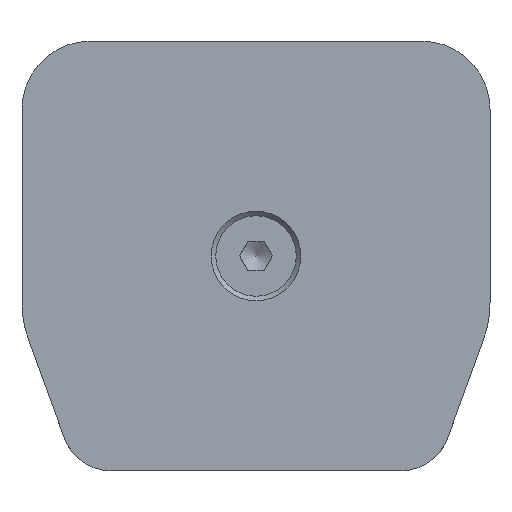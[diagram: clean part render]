
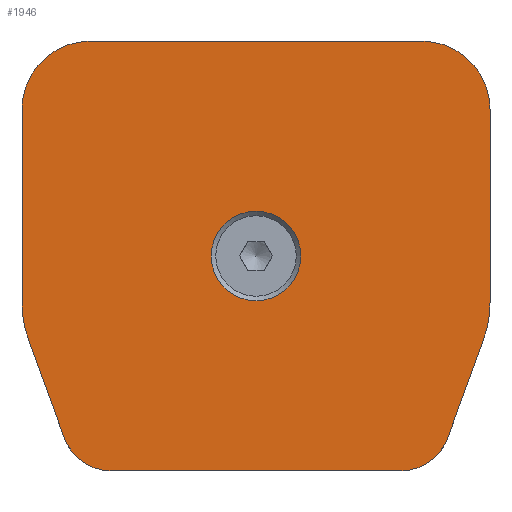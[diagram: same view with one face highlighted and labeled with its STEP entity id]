
A CAD part, top view. The second image highlights one B-rep face of the part: STEP entity #1946.
In plain terms, the highlighted planar face has unit normal (0, 0, 1).
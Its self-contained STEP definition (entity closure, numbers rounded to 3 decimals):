
#75=FACE_BOUND('',#319,.T.);
#91=CIRCLE('',#2057,6.3);
#93=CIRCLE('',#2060,15.);
#95=CIRCLE('',#2064,9.6);
#97=CIRCLE('',#2068,9.6);
#99=CIRCLE('',#2072,15.);
#101=CIRCLE('',#2076,7.);
#103=CIRCLE('',#2080,7.);
#200=FACE_OUTER_BOUND('',#318,.T.);
#318=EDGE_LOOP('',(#1387,#1388,#1389,#1390,#1391,#1392,#1393,#1394,#1395,
#1396,#1397,#1398));
#319=EDGE_LOOP('',(#1399));
#446=LINE('',#2850,#648);
#450=LINE('',#2862,#652);
#454=LINE('',#2874,#656);
#458=LINE('',#2886,#660);
#462=LINE('',#2898,#664);
#466=LINE('',#2909,#668);
#648=VECTOR('',#2284,27.255);
#652=VECTOR('',#2296,46.7);
#656=VECTOR('',#2308,27.255);
#660=VECTOR('',#2320,14.801);
#664=VECTOR('',#2332,40.81);
#668=VECTOR('',#2344,14.801);
#842=VERTEX_POINT('',#2835);
#844=VERTEX_POINT('',#2840);
#845=VERTEX_POINT('',#2841);
#848=VERTEX_POINT('',#2849);
#850=VERTEX_POINT('',#2855);
#852=VERTEX_POINT('',#2861);
#854=VERTEX_POINT('',#2867);
#856=VERTEX_POINT('',#2873);
#858=VERTEX_POINT('',#2879);
#860=VERTEX_POINT('',#2885);
#862=VERTEX_POINT('',#2891);
#864=VERTEX_POINT('',#2897);
#866=VERTEX_POINT('',#2903);
#1031=EDGE_CURVE('',#842,#842,#91,.T.);
#1033=EDGE_CURVE('',#844,#845,#93,.T.);
#1037=EDGE_CURVE('',#845,#848,#446,.T.);
#1040=EDGE_CURVE('',#848,#850,#95,.T.);
#1043=EDGE_CURVE('',#850,#852,#450,.T.);
#1046=EDGE_CURVE('',#852,#854,#97,.T.);
#1049=EDGE_CURVE('',#854,#856,#454,.T.);
#1052=EDGE_CURVE('',#856,#858,#99,.T.);
#1055=EDGE_CURVE('',#858,#860,#458,.T.);
#1058=EDGE_CURVE('',#860,#862,#101,.T.);
#1061=EDGE_CURVE('',#862,#864,#462,.T.);
#1064=EDGE_CURVE('',#864,#866,#103,.T.);
#1067=EDGE_CURVE('',#866,#844,#466,.T.);
#1387=ORIENTED_EDGE('',*,*,#1033,.F.);
#1388=ORIENTED_EDGE('',*,*,#1067,.F.);
#1389=ORIENTED_EDGE('',*,*,#1064,.F.);
#1390=ORIENTED_EDGE('',*,*,#1061,.F.);
#1391=ORIENTED_EDGE('',*,*,#1058,.F.);
#1392=ORIENTED_EDGE('',*,*,#1055,.F.);
#1393=ORIENTED_EDGE('',*,*,#1052,.F.);
#1394=ORIENTED_EDGE('',*,*,#1049,.F.);
#1395=ORIENTED_EDGE('',*,*,#1046,.F.);
#1396=ORIENTED_EDGE('',*,*,#1043,.F.);
#1397=ORIENTED_EDGE('',*,*,#1040,.F.);
#1398=ORIENTED_EDGE('',*,*,#1037,.F.);
#1399=ORIENTED_EDGE('',*,*,#1031,.T.);
#1855=PLANE('',#2084);
#1946=ADVANCED_FACE('',(#200,#75),#1855,.T.);
#2057=AXIS2_PLACEMENT_3D('',#2836,#2270,#2271);
#2060=AXIS2_PLACEMENT_3D('',#2842,#2276,#2277);
#2064=AXIS2_PLACEMENT_3D('',#2856,#2289,#2290);
#2068=AXIS2_PLACEMENT_3D('',#2868,#2301,#2302);
#2072=AXIS2_PLACEMENT_3D('',#2880,#2313,#2314);
#2076=AXIS2_PLACEMENT_3D('',#2892,#2325,#2326);
#2080=AXIS2_PLACEMENT_3D('',#2904,#2337,#2338);
#2084=AXIS2_PLACEMENT_3D('',#2912,#2348,#2349);
#2270=DIRECTION('center_axis',(0.,0.,-1.));
#2271=DIRECTION('ref_axis',(1.,0.,0.));
#2276=DIRECTION('center_axis',(0.,0.,-1.));
#2277=DIRECTION('ref_axis',(-1.,0.,0.));
#2284=DIRECTION('',(0.,1.,0.));
#2289=DIRECTION('center_axis',(0.,0.,-1.));
#2290=DIRECTION('ref_axis',(0.,1.,0.));
#2296=DIRECTION('',(1.,0.,0.));
#2301=DIRECTION('center_axis',(0.,0.,-1.));
#2302=DIRECTION('ref_axis',(1.,0.,0.));
#2308=DIRECTION('',(0.,-1.,0.));
#2313=DIRECTION('center_axis',(0.,0.,-1.));
#2314=DIRECTION('ref_axis',(0.94,-0.342,0.));
#2320=DIRECTION('',(-0.342,-0.94,0.));
#2325=DIRECTION('center_axis',(0.,0.,-1.));
#2326=DIRECTION('ref_axis',(0.,-1.,0.));
#2332=DIRECTION('',(-1.,0.,0.));
#2337=DIRECTION('center_axis',(0.,0.,-1.));
#2338=DIRECTION('ref_axis',(-0.94,-0.342,0.));
#2344=DIRECTION('',(-0.342,0.94,0.));
#2348=DIRECTION('center_axis',(0.,0.,1.));
#2349=DIRECTION('ref_axis',(1.,0.,0.));
#2835=CARTESIAN_POINT('',(82.561,-41.199,3.));
#2836=CARTESIAN_POINT('Origin',(76.261,-41.199,3.));
#2840=CARTESIAN_POINT('',(44.216,-52.935,3.));
#2841=CARTESIAN_POINT('',(43.311,-47.804,3.));
#2842=CARTESIAN_POINT('Origin',(58.311,-47.804,3.));
#2849=CARTESIAN_POINT('',(43.311,-20.549,3.));
#2850=CARTESIAN_POINT('',(43.311,-20.549,3.));
#2855=CARTESIAN_POINT('',(52.911,-10.949,3.));
#2856=CARTESIAN_POINT('Origin',(52.911,-20.549,3.));
#2861=CARTESIAN_POINT('',(99.611,-10.949,3.));
#2862=CARTESIAN_POINT('',(99.611,-10.949,3.));
#2867=CARTESIAN_POINT('',(109.211,-20.549,3.));
#2868=CARTESIAN_POINT('Origin',(99.611,-20.549,3.));
#2873=CARTESIAN_POINT('',(109.211,-47.804,3.));
#2874=CARTESIAN_POINT('',(109.211,-47.804,3.));
#2879=CARTESIAN_POINT('',(108.306,-52.935,3.));
#2880=CARTESIAN_POINT('Origin',(94.211,-47.804,3.));
#2885=CARTESIAN_POINT('',(103.244,-66.843,3.));
#2886=CARTESIAN_POINT('',(103.244,-66.843,3.));
#2891=CARTESIAN_POINT('',(96.666,-71.449,3.));
#2892=CARTESIAN_POINT('Origin',(96.666,-64.449,3.));
#2897=CARTESIAN_POINT('',(55.856,-71.449,3.));
#2898=CARTESIAN_POINT('',(55.856,-71.449,3.));
#2903=CARTESIAN_POINT('',(49.278,-66.843,3.));
#2904=CARTESIAN_POINT('Origin',(55.856,-64.449,3.));
#2909=CARTESIAN_POINT('',(44.216,-52.935,3.));
#2912=CARTESIAN_POINT('Origin',(76.261,-40.214,3.));
